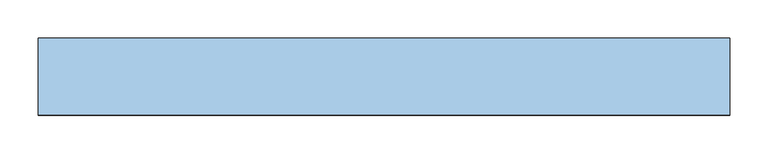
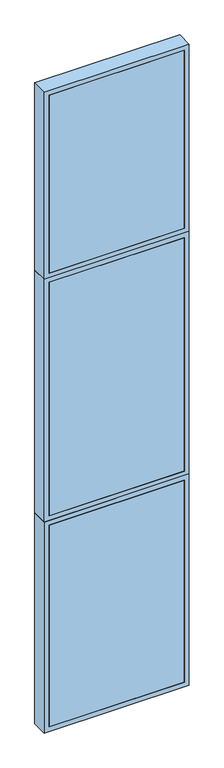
"""IFC4 building model written with IfcOpenShell, lengths in millimetres: window geometry, TRP_CP_ARC_FI_V1 : AL_P03_90_420."""

from ifc_helpers import new_model, si_unit, frame, origin, place, context, project, spatial, polyline, outline, extrude, source, transform, mapped, element, save


def window_edb831b2(model_context):
    return source(origin(), model_context, "Body", "SweptSolid", [
        extrude(outline(polyline([(420.0, -50.0), (-420.0, -50.0), (-420.0, -30.0), (420.0, -30.0), (420.0, -50.0)])), frame((0.0, 0.0, 30.0), z_axis=(0.0, 0.0, 1.0), x_axis=(1.0, 0.0, 0.0)), (0.0, 0.0, 1.0), 1323.0),
        extrude(outline(polyline([(1383.0, 450.0), (1383.0, -450.0), (0.0, -450.0), (0.0, 450.0), (1383.0, 450.0)]), holes=[polyline([(30.0, 420.0), (30.0, -420.0), (1353.0, -420.0), (1353.0, 420.0), (30.0, 420.0)])]), frame((0.0, -50.0, 0.0), z_axis=(0.0, 1.0, 0.0), x_axis=(0.0, 0.0, 1.0)), (0.0, 0.0, 1.0), 100.0),
        extrude(outline(polyline([(2973.0, 450.0), (2973.0, -450.0), (1383.0, -450.0), (1383.0, 450.0), (2973.0, 450.0)]), holes=[polyline([(1413.0, 420.0), (1413.0, -420.0), (2943.0, -420.0), (2943.0, 420.0), (1413.0, 420.0)])]), frame((0.0, -50.0, 0.0), z_axis=(0.0, 1.0, 0.0), x_axis=(0.0, 0.0, 1.0)), (0.0, 0.0, 1.0), 100.0),
        extrude(outline(polyline([(420.0, -50.0), (-420.0, -50.0), (-420.0, -30.0), (420.0, -30.0), (420.0, -50.0)])), frame((0.0, 0.0, 1413.0), z_axis=(0.0, 0.0, 1.0), x_axis=(1.0, 0.0, 0.0)), (0.0, 0.0, 1.0), 1530.0),
        extrude(outline(polyline([(4200.0, 450.0), (4200.0, -450.0), (2973.0, -450.0), (2973.0, 450.0), (4200.0, 450.0)]), holes=[polyline([(3003.0, 420.0), (3003.0, -420.0), (4170.0, -420.0), (4170.0, 420.0), (3003.0, 420.0)])]), frame((0.0, -50.0, 0.0), z_axis=(0.0, 1.0, 0.0), x_axis=(0.0, 0.0, 1.0)), (0.0, 0.0, 1.0), 100.0),
        extrude(outline(polyline([(420.0, -50.0), (-420.0, -50.0), (-420.0, -30.0), (420.0, -30.0), (420.0, -50.0)])), frame((0.0, 0.0, 3003.0), z_axis=(0.0, 0.0, 1.0), x_axis=(1.0, 0.0, 0.0)), (0.0, 0.0, 1.0), 1167.0),
    ])


if __name__ == "__main__":
    model = new_model("IFC4")
    model_context = context("Model", 3, world=origin())
    ifc_project = project(units=[si_unit("LENGTHUNIT", "METRE", prefix="MILLI")], contexts=[model_context])
    site = spatial("IfcSite", under=ifc_project)
    building = spatial("IfcBuilding", under=site)
    placement = place(None, origin())
    window_shape = window_edb831b2(model_context)
    element("IfcWindow", 1, ObjectType="TRP_CP_ARC_FI_V1 : AL_P03_90_420", at=placement, inside=building, context=model_context, shape_type="MappedRepresentation", body=[
        mapped(window_shape, transform((0.0, 0.0, 0.0), x_axis=(1.0, 0.0, 0.0), y_axis=(0.0, 1.0, 0.0), z_axis=(0.0, 0.0, 1.0))),
    ])
    save(model, "model.ifc")
